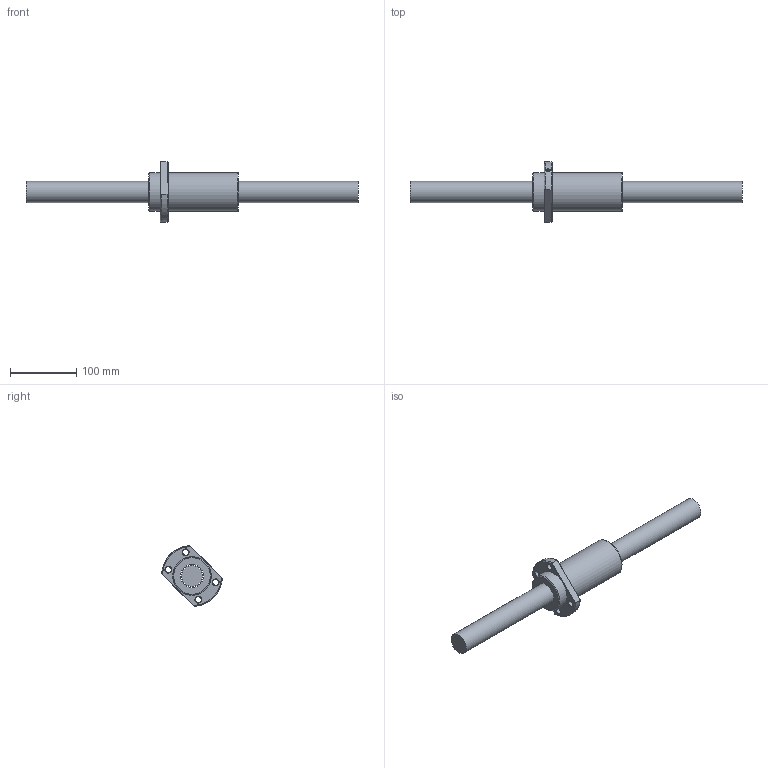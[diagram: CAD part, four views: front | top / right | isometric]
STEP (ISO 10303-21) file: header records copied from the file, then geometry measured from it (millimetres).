
FILE_DESCRIPTION (( 'STEP AP203' ), '1' );
FILE_NAME ('SFY03264-3.6.STEP', '2024-05-22T07:54:46', ( '' ), ( '' ), 'SwSTEP 2.0', 'SolidWorks 2022', '' );
FILE_SCHEMA (( 'CONFIG_CONTROL_DESIGN' ));
Length unit declared in the file: millimetre
Products named in the file (1): SFY03264-3.6
Bounding box: 500 x 91.74 x 91.74 mm (x, y, z)
Volume: 655900.9 mm3; surface area: 101241.7 mm2
Topology: 2 solids, 2 shells, 51 faces, 124 edges, 79 vertices
Faces by surface type: cylinder 18, plane 13, cone 9, torus 6, bspline 5
Full cylindrical faces by diameter (mm): 4 x1, 5 x6, 9 x4, 32 x1, 34.8 x1, 58 x2
Entity records: 3027 total; most frequent: CARTESIAN_POINT 2066, DIRECTION 170, ORIENTED_EDGE 156, EDGE_LOOP 80, EDGE_CURVE 78, AXIS2_PLACEMENT_3D 77, VERTEX_POINT 62, FACE_OUTER_BOUND 57
